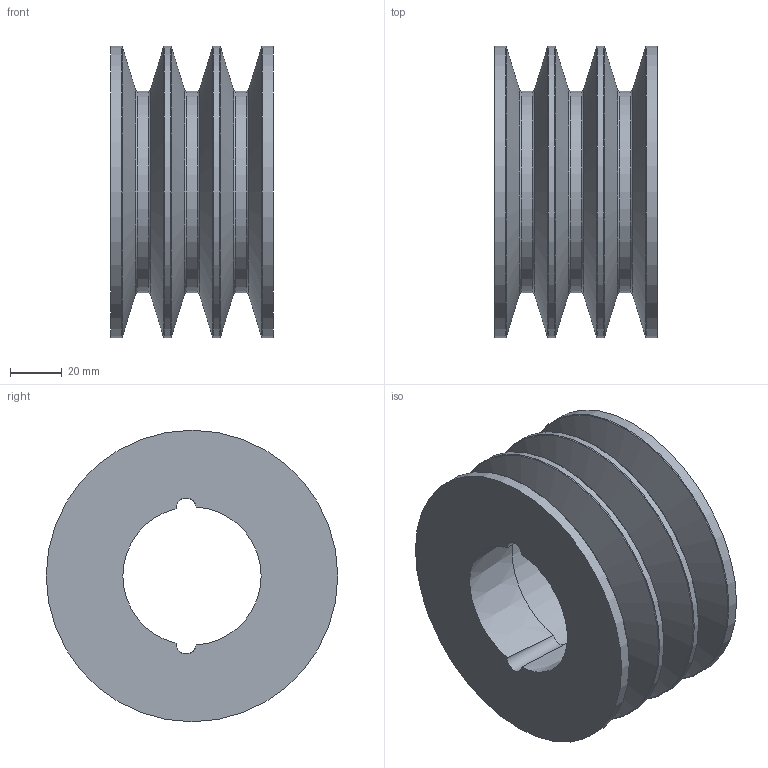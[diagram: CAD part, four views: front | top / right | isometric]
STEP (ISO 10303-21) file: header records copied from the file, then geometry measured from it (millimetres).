
FILE_DESCRIPTION(/* description */ ('PULEG. A GOLA SPB 106/3 B.1610 '),/* implementation_level */ '2;1');
FILE_NAME(/* name */ '91301063.stp',/* time_stamp */ '2023-04-05T16:41:48+02:00',/* author */ ('Paolo.Silvestro'),/* organization */ (''),/* preprocessor_version */ 'ST-DEVELOPER v19.2',/* originating_system */ 'Autodesk Inventor 2023',/* authorisation */ '');
FILE_SCHEMA (('CONFIG_CONTROL_DESIGN'));
Length unit declared in the file: millimetre
Products named in the file (1): 91301063
Bounding box: 63 x 113 x 113 mm (x, y, z)
Volume: 261550.4 mm3; surface area: 69340.2 mm2
Topology: 1 solids, 1 shells, 35 faces, 96 edges, 64 vertices
Faces by surface type: cone 15, cylinder 11, torus 6, plane 3
Full cylindrical faces by diameter (mm): 67 x1, 78 x3, 113 x4
Entity records: 1241 total; most frequent: CARTESIAN_POINT 245, DIRECTION 230, ORIENTED_EDGE 192, AXIS2_PLACEMENT_3D 105, EDGE_CURVE 96, CIRCLE 69, VERTEX_POINT 64, EDGE_LOOP 38
